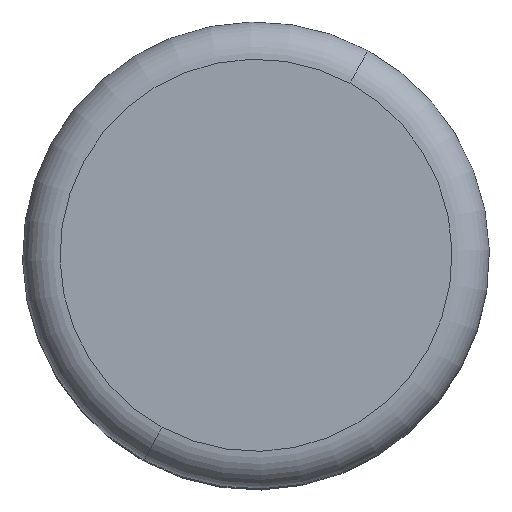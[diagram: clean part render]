
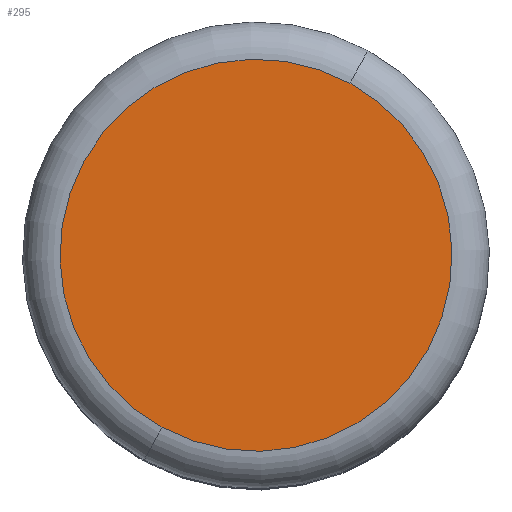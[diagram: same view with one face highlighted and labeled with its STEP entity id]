
A CAD part, top view. The second image highlights one B-rep face of the part: STEP entity #295.
In plain terms, the highlighted planar face has unit normal (0, 0, 1).
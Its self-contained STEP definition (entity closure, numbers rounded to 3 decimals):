
#242=CARTESIAN_POINT('Vertex',(5.034,9.215,45.)) ;
#245=CARTESIAN_POINT('Axis2P3D Location',(0.,0.,45.)) ;
#249=CARTESIAN_POINT('Vertex',(-5.034,-9.215,45.)) ;
#264=CARTESIAN_POINT('Axis2P3D Location',(0.,0.,45.)) ;
#286=CARTESIAN_POINT('Axis2P3D Location',(0.,10.5,45.)) ;
#246=DIRECTION('Axis2P3D Direction',(0.,0.,-1.)) ;
#265=DIRECTION('Axis2P3D Direction',(0.,0.,-1.)) ;
#287=DIRECTION('Axis2P3D Direction',(0.,0.,-1.)) ;
#288=DIRECTION('Axis2P3D XDirection',(1.,0.,0.)) ;
#247=AXIS2_PLACEMENT_3D('Circle Axis2P3D',#245,#246,$) ;
#266=AXIS2_PLACEMENT_3D('Circle Axis2P3D',#264,#265,$) ;
#289=AXIS2_PLACEMENT_3D('Plane Axis2P3D',#286,#287,#288) ;
#292=ORIENTED_EDGE('',*,*,#251,.F.) ;
#293=ORIENTED_EDGE('',*,*,#268,.F.) ;
#295=ADVANCED_FACE('A519-25',(#294),#290,.F.) ;
#248=CIRCLE('generated circle',#247,10.5) ;
#267=CIRCLE('generated circle',#266,10.5) ;
#251=EDGE_CURVE('',#243,#250,#248,.T.) ;
#268=EDGE_CURVE('',#250,#243,#267,.T.) ;
#291=EDGE_LOOP('',(#292,#293)) ;
#294=FACE_OUTER_BOUND('',#291,.T.) ;
#290=PLANE('Plane',#289) ;
#243=VERTEX_POINT('',#242) ;
#250=VERTEX_POINT('',#249) ;
